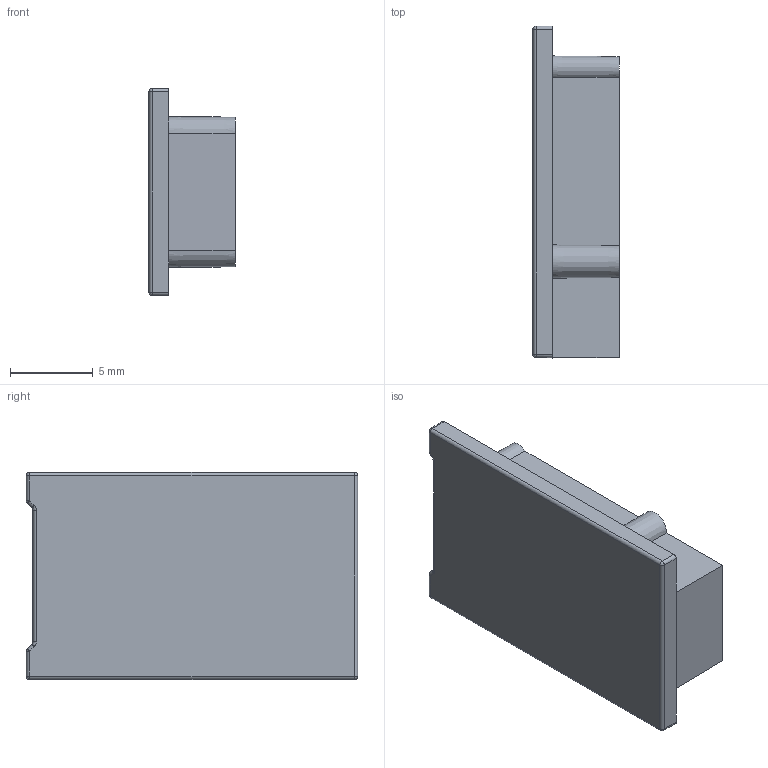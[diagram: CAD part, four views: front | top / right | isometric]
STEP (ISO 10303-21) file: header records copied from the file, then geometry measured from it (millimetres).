
FILE_DESCRIPTION((''),'2;1');
FILE_NAME('KC-0006-0015','2025-08-01T15:53:29',('YF-06'),(''),'CREO PARAMETRIC BY PTC INC, 2022073','CREO PARAMETRIC BY PTC INC, 2022073','');
FILE_SCHEMA(('CONFIG_CONTROL_DESIGN','SHAPE_APPEARANCE_LAYERS_GROUPS'));
Length unit declared in the file: millimetre
Products named in the file (1): KC-0006-0015
Bounding box: 5.2 x 20 x 12.5 mm (x, y, z)
Volume: 442.6 mm3; surface area: 961 mm2
Topology: 1 solids, 1 shells, 68 faces, 171 edges, 106 vertices
Faces by surface type: plane 28, cylinder 20, cone 8, bspline 6, sphere 6
Entity records: 2300 total; most frequent: CARTESIAN_POINT 653, ORIENTED_EDGE 342, DIRECTION 293, EDGE_CURVE 171, VERTEX_POINT 106, AXIS2_PLACEMENT_3D 100, VECTOR 93, LINE 93
